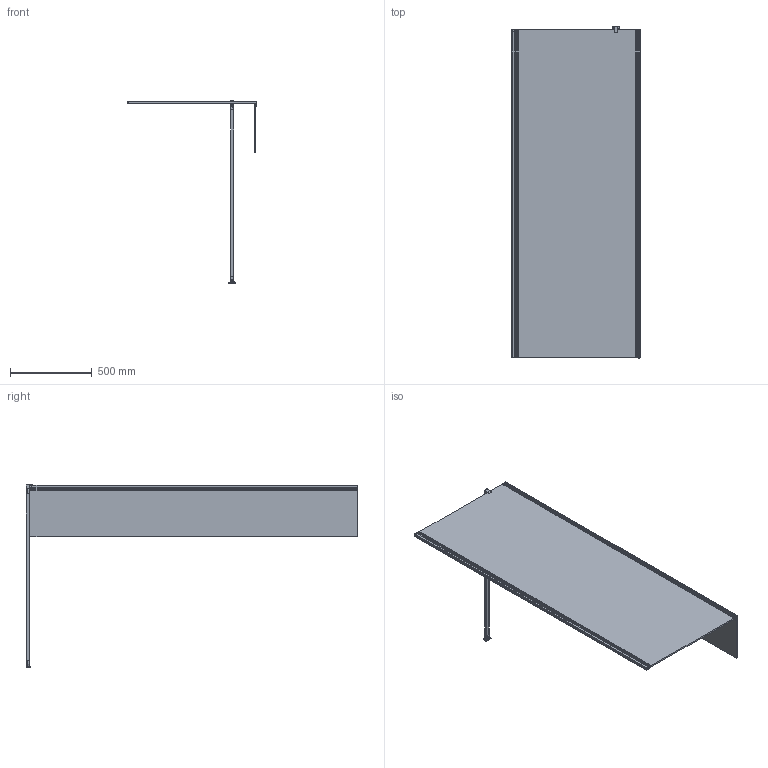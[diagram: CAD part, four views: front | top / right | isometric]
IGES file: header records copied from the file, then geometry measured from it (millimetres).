
Global section: file name: 5dba3b22-b257-4d4e-bb58-806bd26d61f1; native system: unknown; preprocessor: unknown; author: unknown; organization: unknown; date: 20200708.091710; units: millimetre
Bounding box: 784.5 x 2024 x 1112.86 mm (x, y, z)
Volume: 20629056.5 mm3; surface area: 5551047.5 mm2
Topology: 16 solids, 16 shells, 814 faces, 2116 edges, 1332 vertices
Faces by surface type: bspline 814
